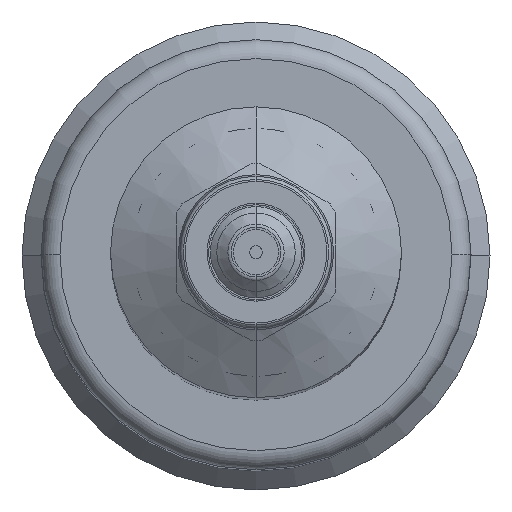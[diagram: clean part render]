
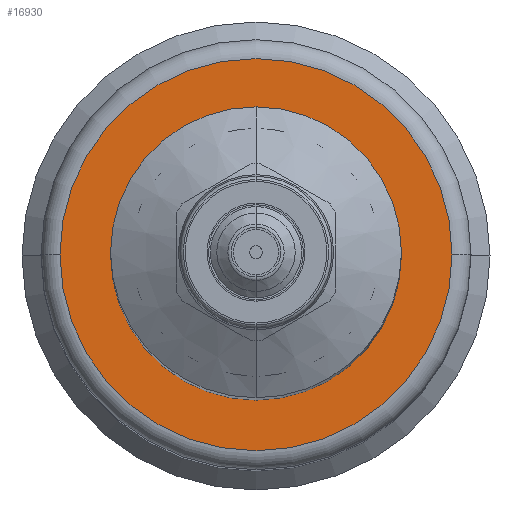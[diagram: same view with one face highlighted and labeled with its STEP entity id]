
A CAD part, top view. The second image highlights one B-rep face of the part: STEP entity #16930.
In plain terms, the highlighted planar face has unit normal (0, 0, 1).
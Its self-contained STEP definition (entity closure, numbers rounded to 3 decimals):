
#347 = EDGE_LOOP ( 'NONE', ( #16326, #16327 ) ) ;
#376 = EDGE_LOOP ( 'NONE', ( #16328, #16329 ) ) ;
#6455 = AXIS2_PLACEMENT_3D ( 'NONE', #8506, #8507, #8508 ) ;
#8159 = FACE_BOUND ( 'NONE', #347, .T. ) ;
#8160 = FACE_OUTER_BOUND ( 'NONE', #376, .T. ) ;
#8505 = PLANE ( 'NONE',  #6455 ) ;
#8506 = CARTESIAN_POINT ( 'NONE',  ( -31., 0., 172. ) ) ;
#8507 = DIRECTION ( 'NONE',  ( 0., 0., -1. ) ) ;
#8508 = DIRECTION ( 'NONE',  ( -1., 0., 0. ) ) ;
#10916 = CARTESIAN_POINT ( 'NONE',  ( -31., 0., 172. ) ) ;
#10917 = CARTESIAN_POINT ( 'NONE',  ( 31., 0., 172. ) ) ;
#10942 = CARTESIAN_POINT ( 'NONE',  ( 0., -23., 172. ) ) ;
#10943 = CARTESIAN_POINT ( 'NONE',  ( 0., 23., 172. ) ) ;
#11389 = AXIS2_PLACEMENT_3D ( 'NONE', #14102, #14103, #14104 ) ;
#11407 = AXIS2_PLACEMENT_3D ( 'NONE', #14186, #14187, #14188 ) ;
#11409 = AXIS2_PLACEMENT_3D ( 'NONE', #14194, #14195, #14196 ) ;
#11422 = AXIS2_PLACEMENT_3D ( 'NONE', #14233, #14234, #14235 ) ;
#13658 = CIRCLE ( 'NONE', #11389, 31. ) ;
#13707 = CIRCLE ( 'NONE', #11407, 23. ) ;
#13710 = CIRCLE ( 'NONE', #11409, 23. ) ;
#13723 = CIRCLE ( 'NONE', #11422, 31. ) ;
#14102 = CARTESIAN_POINT ( 'NONE',  ( 0., 0., 172. ) ) ;
#14103 = DIRECTION ( 'NONE',  ( 0., 0., 1. ) ) ;
#14104 = DIRECTION ( 'NONE',  ( 1., 0., 0. ) ) ;
#14186 = CARTESIAN_POINT ( 'NONE',  ( 0., 0., 172. ) ) ;
#14187 = DIRECTION ( 'NONE',  ( 0., 0., 1. ) ) ;
#14188 = DIRECTION ( 'NONE',  ( 1., 0., 0. ) ) ;
#14194 = CARTESIAN_POINT ( 'NONE',  ( 0., 0., 172. ) ) ;
#14195 = DIRECTION ( 'NONE',  ( 0., 0., 1. ) ) ;
#14196 = DIRECTION ( 'NONE',  ( 1., 0., 0. ) ) ;
#14233 = CARTESIAN_POINT ( 'NONE',  ( 0., 0., 172. ) ) ;
#14234 = DIRECTION ( 'NONE',  ( 0., 0., 1. ) ) ;
#14235 = DIRECTION ( 'NONE',  ( 1., 0., 0. ) ) ;
#16326 = ORIENTED_EDGE ( 'NONE', *, *, #19207, .F. ) ;
#16327 = ORIENTED_EDGE ( 'NONE', *, *, #19204, .F. ) ;
#16328 = ORIENTED_EDGE ( 'NONE', *, *, #19171, .T. ) ;
#16329 = ORIENTED_EDGE ( 'NONE', *, *, #19220, .T. ) ;
#16930 = ADVANCED_FACE ( 'NONE', ( #8159, #8160 ), #8505, .F. ) ;
#17538 = VERTEX_POINT ( 'NONE', #10916 ) ;
#17539 = VERTEX_POINT ( 'NONE', #10917 ) ;
#17564 = VERTEX_POINT ( 'NONE', #10942 ) ;
#17565 = VERTEX_POINT ( 'NONE', #10943 ) ;
#19171 = EDGE_CURVE ( 'NONE', #17539, #17538, #13658, .T. ) ;
#19204 = EDGE_CURVE ( 'NONE', #17564, #17565, #13707, .T. ) ;
#19207 = EDGE_CURVE ( 'NONE', #17565, #17564, #13710, .T. ) ;
#19220 = EDGE_CURVE ( 'NONE', #17538, #17539, #13723, .T. ) ;
